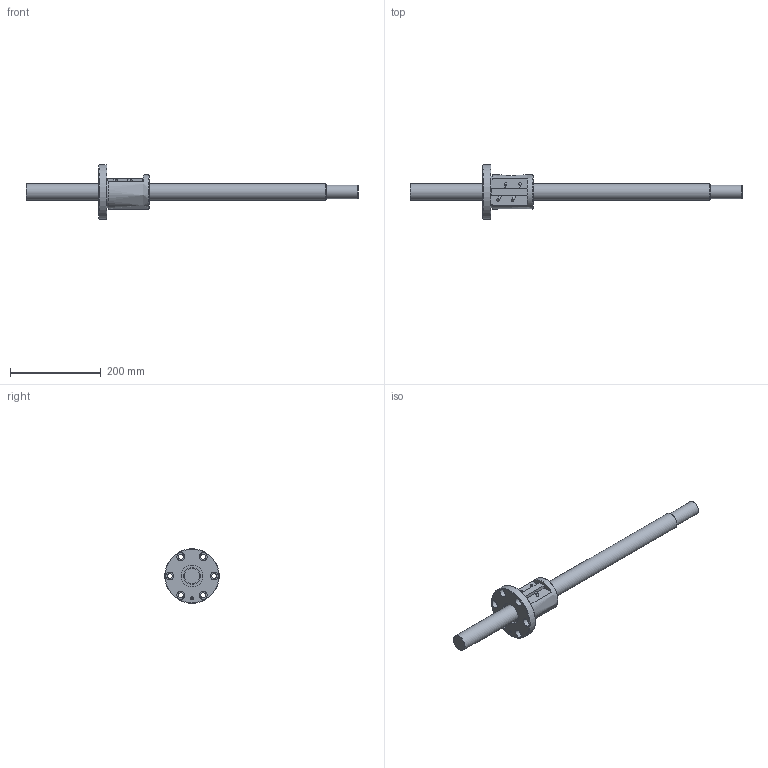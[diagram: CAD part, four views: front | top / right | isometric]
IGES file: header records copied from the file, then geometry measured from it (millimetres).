
Start section: Data from Parasolid IGES Translator 26.0.171, Copyright(c) 2006 Siemens PLM Software. All Rights Reserved.
Global section: file name: BNF3610-5RRG1+730LC5A(00).igs; native system: By Siemens PLM Incorporated; preprocessor: XPlus GENERIC/IGES 26.0.171; author: Noname; organization: Noname; date: 20240715.074917; units: millimetre
Bounding box: 730 x 120 x 120 mm (x, y, z)
Surface area: 152417.1 mm2 (no closed solid volume)
Topology: 0 solids, 0 shells, 70 faces, 322 edges, 280 vertices
Faces by surface type: revolution 46, extrusion 24
